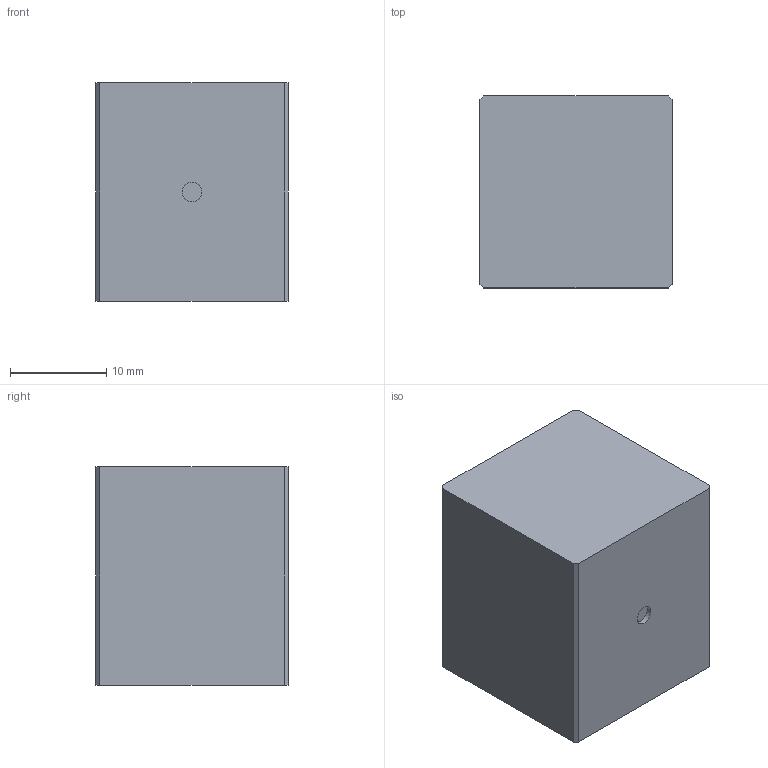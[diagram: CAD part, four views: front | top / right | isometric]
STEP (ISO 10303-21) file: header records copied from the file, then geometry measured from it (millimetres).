
FILE_DESCRIPTION(('Open CASCADE Model'),'2;1');
FILE_NAME('Open CASCADE Shape Model','2026-08-23T08:04:36',('Author'),( 'Open CASCADE'),'Open CASCADE STEP processor 7.9','Open CASCADE 7.9' ,'Unknown');
FILE_SCHEMA(('AUTOMOTIVE_DESIGN { 1 0 10303 214 1 1 1 1 }'));
Length unit declared in the file: millimetre
Products named in the file (2): =>[0:1:1:2]; COMPOUND
Assembly tree (1 placements, depth 2):
  =>[0:1:1:2]
    COMPOUND
Bounding box: 20 x 20 x 22.75 mm (x, y, z)
Volume: 9091.1 mm3; surface area: 2601.2 mm2
Topology: 1 solids, 1 shells, 12 faces, 27 edges, 18 vertices
Faces by surface type: plane 11, cylinder 1
Full cylindrical faces by diameter (mm): 2 x1
Entity records: 731 total; most frequent: CARTESIAN_POINT 119, DIRECTION 110, LINE 77, VECTOR 77, ORIENTED_EDGE 54, PCURVE 54, DEFINITIONAL_REPRESENTATION 54, EDGE_CURVE 27
